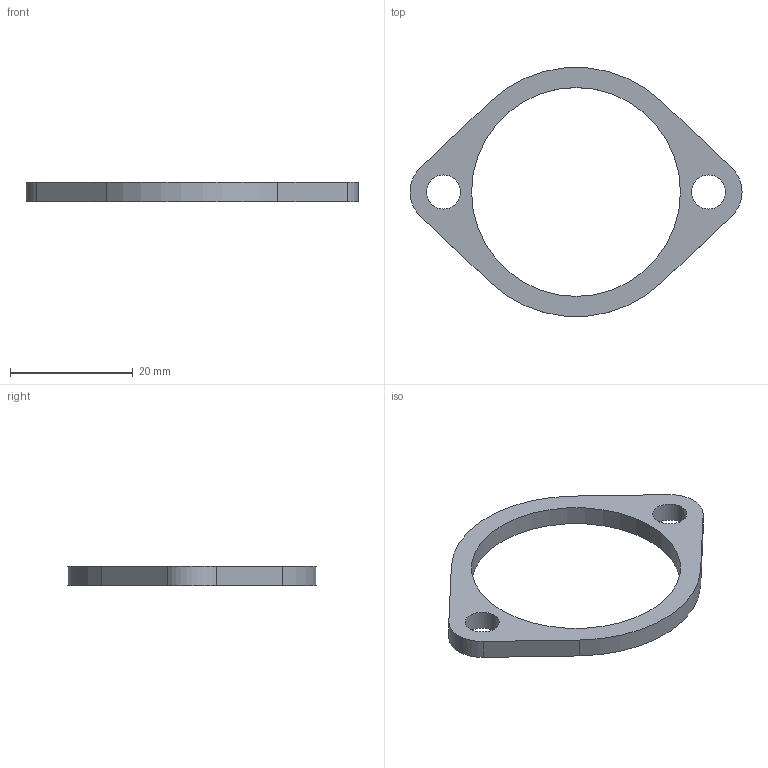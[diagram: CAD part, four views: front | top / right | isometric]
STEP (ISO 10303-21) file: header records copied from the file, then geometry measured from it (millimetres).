
FILE_DESCRIPTION(/* description */ ('Alibre Inc.'),/* implementation_level */ '2;1');
FILE_NAME(/* name */ 'export-FC3B1DDD-25F4-4FD4-9E5D-F94FBED8F170',/* time_stamp */ '2025-03-27T10:23:35-05:00',/* author */ (''),/* organization */ (''),/* preprocessor_version */ 'ST-DEVELOPER v17',/* originating_system */ 'Alibre',/* authorisation */ '');
FILE_SCHEMA (('CONFIG_CONTROL_DESIGN'));
Length unit declared in the file: centimetre
Bounding box: 54.1 x 40.5 x 3.17 mm (x, y, z)
Volume: 1665.1 mm3; surface area: 1950.4 mm2
Topology: 1 solids, 1 shells, 13 faces, 33 edges, 22 vertices
Faces by surface type: cylinder 7, plane 6
Full cylindrical faces by diameter (mm): 5.563 x2, 34.036 x1
Entity records: 477 total; most frequent: CARTESIAN_POINT 65, DIRECTION 64, ORIENTED_EDGE 60, EDGE_CURVE 30, AXIS2_PLACEMENT_3D 27, VERTEX_POINT 22, EDGE_LOOP 22, FACE_BOUND 22
